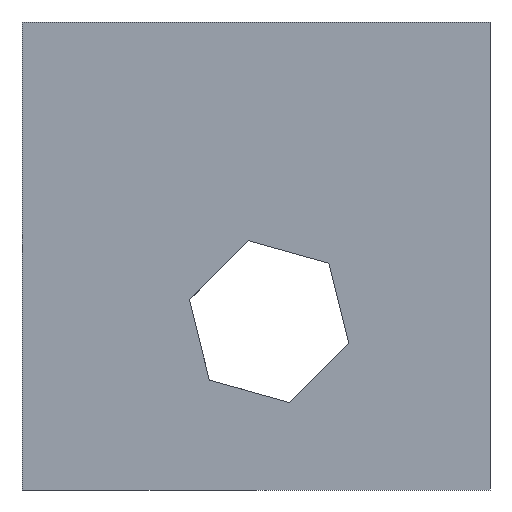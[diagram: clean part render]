
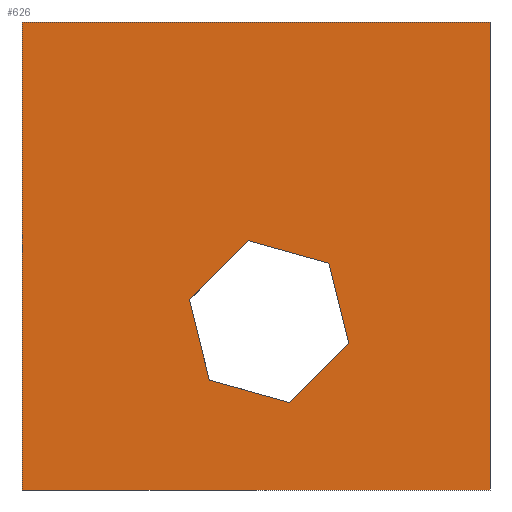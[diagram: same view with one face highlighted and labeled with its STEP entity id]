
A CAD part, left-side view. The second image highlights one B-rep face of the part: STEP entity #626.
In plain terms, the highlighted planar face has unit normal (-1, 0, 0).
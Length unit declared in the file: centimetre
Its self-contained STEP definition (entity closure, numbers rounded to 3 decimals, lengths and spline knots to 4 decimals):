
#29 = CARTESIAN_POINT ( 'NONE',  ( 0., 642.4804, 406.4523 ) ) ;
#34 = DIRECTION ( 'NONE',  ( 0., 0.242, 0.97 ) ) ;
#47 = CARTESIAN_POINT ( 'NONE',  ( 0., 1000., 1000. ) ) ;
#52 = ORIENTED_EDGE ( 'NONE', *, *, #567, .T. ) ;
#57 = EDGE_CURVE ( 'NONE', #119, #434, #740, .T. ) ;
#58 = CARTESIAN_POINT ( 'NONE',  ( 0., 0., 0. ) ) ;
#59 = EDGE_CURVE ( 'NONE', #119, #210, #276, .T. ) ;
#79 = EDGE_CURVE ( 'NONE', #434, #768, #334, .T. ) ;
#83 = FACE_OUTER_BOUND ( 'NONE', #687, .T. ) ;
#117 = CARTESIAN_POINT ( 'NONE',  ( 0., 301.3726, 312.9743 ) ) ;
#119 = VERTEX_POINT ( 'NONE', #982 ) ;
#145 = VECTOR ( 'NONE', #639, 100. ) ;
#178 = DIRECTION ( 'NONE',  ( 0., 0.707, -0.707 ) ) ;
#179 = CARTESIAN_POINT ( 'NONE',  ( 0., 427.6463, 186.7006 ) ) ;
#182 = DIRECTION ( 'NONE',  ( 1., 0., 0. ) ) ;
#198 = EDGE_CURVE ( 'NONE', #321, #651, #467, .T. ) ;
#203 = CARTESIAN_POINT ( 'NONE',  ( 0., 1000., 1000. ) ) ;
#210 = VERTEX_POINT ( 'NONE', #556 ) ;
#223 = LINE ( 'NONE', #380, #318 ) ;
#247 = VERTEX_POINT ( 'NONE', #117 ) ;
#276 = LINE ( 'NONE', #203, #636 ) ;
#283 = VERTEX_POINT ( 'NONE', #360 ) ;
#288 = VERTEX_POINT ( 'NONE', #739 ) ;
#289 = VECTOR ( 'NONE', #664, 100. ) ;
#292 = VECTOR ( 'NONE', #766, 100. ) ;
#313 = VECTOR ( 'NONE', #489, 100. ) ;
#318 = VECTOR ( 'NONE', #698, 100. ) ;
#321 = VERTEX_POINT ( 'NONE', #571 ) ;
#334 = LINE ( 'NONE', #553, #605 ) ;
#356 = ORIENTED_EDGE ( 'NONE', *, *, #59, .T. ) ;
#360 = CARTESIAN_POINT ( 'NONE',  ( 0., 642.4804, 406.4523 ) ) ;
#380 = CARTESIAN_POINT ( 'NONE',  ( 0., 599.6198, 234.8592 ) ) ;
#398 = ORIENTED_EDGE ( 'NONE', *, *, #79, .F. ) ;
#405 = DIRECTION ( 'NONE',  ( 0., 0.963, 0.27 ) ) ;
#411 = LINE ( 'NONE', #728, #705 ) ;
#427 = DIRECTION ( 'NONE',  ( 0., 0., -1. ) ) ;
#430 = CARTESIAN_POINT ( 'NONE',  ( 0., 0., 1000. ) ) ;
#434 = VERTEX_POINT ( 'NONE', #430 ) ;
#438 = VECTOR ( 'NONE', #178, 100. ) ;
#449 = CARTESIAN_POINT ( 'NONE',  ( 0., 1000., 0. ) ) ;
#452 = VECTOR ( 'NONE', #405, 100. ) ;
#459 = FACE_BOUND ( 'NONE', #464, .T. ) ;
#464 = EDGE_LOOP ( 'NONE', ( #816, #873, #506, #838, #722, #496 ) ) ;
#467 = LINE ( 'NONE', #715, #452 ) ;
#489 = DIRECTION ( 'NONE',  ( 0., -0.707, 0.707 ) ) ;
#491 = LINE ( 'NONE', #813, #438 ) ;
#496 = ORIENTED_EDGE ( 'NONE', *, *, #945, .F. ) ;
#503 = DIRECTION ( 'NONE',  ( 0., 0., -1. ) ) ;
#506 = ORIENTED_EDGE ( 'NONE', *, *, #975, .F. ) ;
#525 = EDGE_CURVE ( 'NONE', #895, #247, #892, .T. ) ;
#553 = CARTESIAN_POINT ( 'NONE',  ( 0., 0., 1000. ) ) ;
#556 = CARTESIAN_POINT ( 'NONE',  ( 0., 1000., 0. ) ) ;
#562 = LINE ( 'NONE', #29, #145 ) ;
#567 = EDGE_CURVE ( 'NONE', #210, #768, #996, .T. ) ;
#571 = CARTESIAN_POINT ( 'NONE',  ( 0., 344.2331, 484.5675 ) ) ;
#605 = VECTOR ( 'NONE', #503, 100. ) ;
#608 = CARTESIAN_POINT ( 'NONE',  ( 0., 427.6463, 186.7006 ) ) ;
#626 = ADVANCED_FACE ( 'NONE', ( #459, #83 ), #826, .F. ) ;
#636 = VECTOR ( 'NONE', #958, 100. ) ;
#639 = DIRECTION ( 'NONE',  ( 0., -0.242, -0.97 ) ) ;
#643 = ORIENTED_EDGE ( 'NONE', *, *, #57, .F. ) ;
#651 = VERTEX_POINT ( 'NONE', #837 ) ;
#664 = DIRECTION ( 'NONE',  ( 0., -1., 0. ) ) ;
#687 = EDGE_LOOP ( 'NONE', ( #52, #398, #643, #356 ) ) ;
#698 = DIRECTION ( 'NONE',  ( 0., -0.963, -0.27 ) ) ;
#705 = VECTOR ( 'NONE', #34, 100. ) ;
#715 = CARTESIAN_POINT ( 'NONE',  ( 0., 344.2331, 484.5675 ) ) ;
#722 = ORIENTED_EDGE ( 'NONE', *, *, #885, .F. ) ;
#728 = CARTESIAN_POINT ( 'NONE',  ( 0., 301.3726, 312.9743 ) ) ;
#739 = CARTESIAN_POINT ( 'NONE',  ( 0., 599.6198, 234.8592 ) ) ;
#740 = LINE ( 'NONE', #47, #289 ) ;
#766 = DIRECTION ( 'NONE',  ( 0., -1., 0. ) ) ;
#768 = VERTEX_POINT ( 'NONE', #58 ) ;
#813 = CARTESIAN_POINT ( 'NONE',  ( 0., 516.2067, 532.7261 ) ) ;
#816 = ORIENTED_EDGE ( 'NONE', *, *, #967, .F. ) ;
#826 = PLANE ( 'NONE',  #856 ) ;
#837 = CARTESIAN_POINT ( 'NONE',  ( 0., 516.2067, 532.7261 ) ) ;
#838 = ORIENTED_EDGE ( 'NONE', *, *, #525, .F. ) ;
#856 = AXIS2_PLACEMENT_3D ( 'NONE', #922, #182, #427 ) ;
#873 = ORIENTED_EDGE ( 'NONE', *, *, #198, .F. ) ;
#885 = EDGE_CURVE ( 'NONE', #288, #895, #223, .T. ) ;
#892 = LINE ( 'NONE', #179, #313 ) ;
#895 = VERTEX_POINT ( 'NONE', #608 ) ;
#922 = CARTESIAN_POINT ( 'NONE',  ( 0., 1000., 1000. ) ) ;
#945 = EDGE_CURVE ( 'NONE', #283, #288, #562, .T. ) ;
#958 = DIRECTION ( 'NONE',  ( 0., 0., -1. ) ) ;
#967 = EDGE_CURVE ( 'NONE', #651, #283, #491, .T. ) ;
#975 = EDGE_CURVE ( 'NONE', #247, #321, #411, .T. ) ;
#982 = CARTESIAN_POINT ( 'NONE',  ( 0., 1000., 1000. ) ) ;
#996 = LINE ( 'NONE', #449, #292 ) ;
